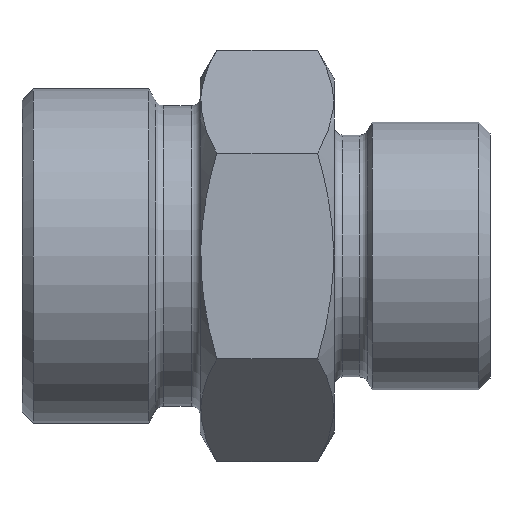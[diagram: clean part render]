
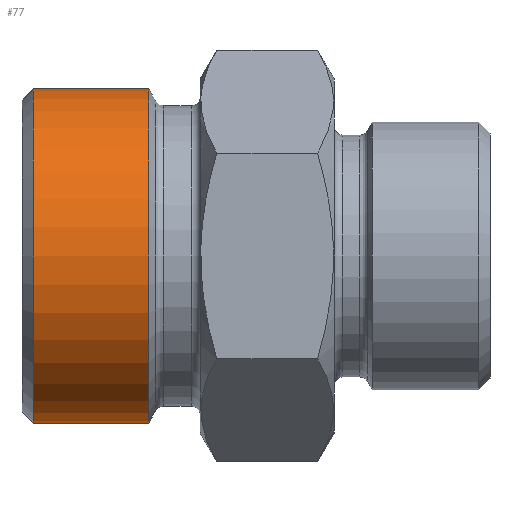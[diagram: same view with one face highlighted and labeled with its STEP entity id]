
A CAD part, front view. The second image highlights one B-rep face of the part: STEP entity #77.
In plain terms, the highlighted cylindrical face has radius 15 mm (diameter 30 mm), a full revolution.
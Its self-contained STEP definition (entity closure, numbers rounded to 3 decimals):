
#77 = ADVANCED_FACE( '', ( #179, #180 ), #181, .T. );
#179 = FACE_OUTER_BOUND( '', #312, .T. );
#180 = FACE_OUTER_BOUND( '', #313, .T. );
#181 = CYLINDRICAL_SURFACE( '', #314, 15. );
#312 = EDGE_LOOP( '', ( #472 ) );
#313 = EDGE_LOOP( '', ( #473 ) );
#314 = AXIS2_PLACEMENT_3D( '', #474, #475, #476 );
#472 = ORIENTED_EDGE( '', *, *, #658, .T. );
#473 = ORIENTED_EDGE( '', *, *, #659, .T. );
#474 = CARTESIAN_POINT( '', ( -60., 0., 0. ) );
#475 = DIRECTION( '', ( 1., 0., 0. ) );
#476 = DIRECTION( '', ( 0., 0., 1. ) );
#658 = EDGE_CURVE( '', #761, #761, #762, .F. );
#659 = EDGE_CURVE( '', #763, #763, #764, .T. );
#761 = VERTEX_POINT( '', #1018 );
#762 = CIRCLE( '', #1019, 15. );
#763 = VERTEX_POINT( '', #1020 );
#764 = CIRCLE( '', #1021, 15. );
#1018 = CARTESIAN_POINT( '', ( -20., 0., 15. ) );
#1019 = AXIS2_PLACEMENT_3D( '', #1116, #1117, #1118 );
#1020 = CARTESIAN_POINT( '', ( -9.635, 0., 15. ) );
#1021 = AXIS2_PLACEMENT_3D( '', #1119, #1120, #1121 );
#1116 = CARTESIAN_POINT( '', ( -20., 0., 0. ) );
#1117 = DIRECTION( '', ( -1., 0., 0. ) );
#1118 = DIRECTION( '', ( 0., 0., 1. ) );
#1119 = CARTESIAN_POINT( '', ( -9.635, 0., 0. ) );
#1120 = DIRECTION( '', ( -1., 0., 0. ) );
#1121 = DIRECTION( '', ( 0., 0., 1. ) );
